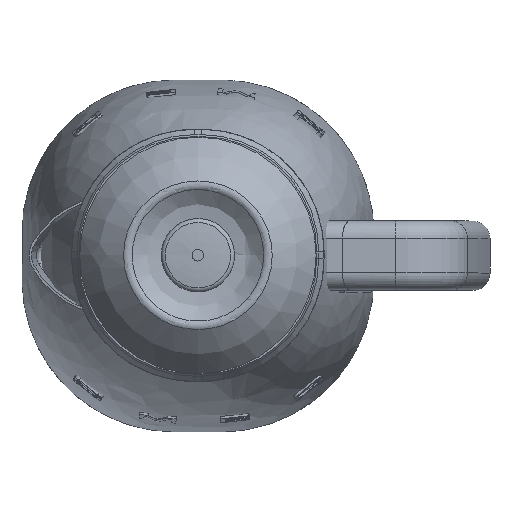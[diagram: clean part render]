
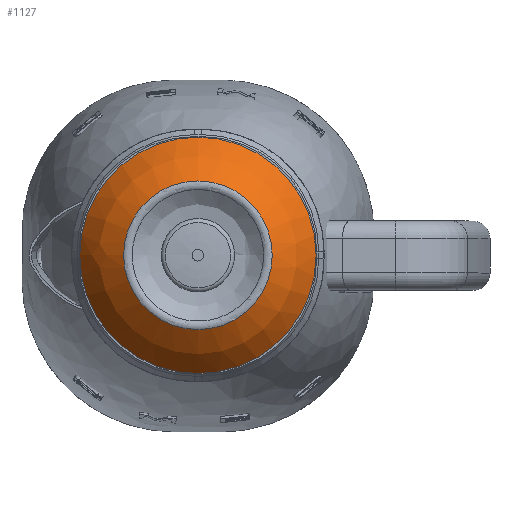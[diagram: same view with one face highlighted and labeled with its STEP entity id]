
A CAD part, top view. The second image highlights one B-rep face of the part: STEP entity #1127.
In plain terms, the highlighted spherical face has radius 59.5 mm.
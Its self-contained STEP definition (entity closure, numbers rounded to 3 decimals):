
#37=SPHERICAL_SURFACE('',#7516,59.5);
#83=FACE_BOUND('',#2071,.T.);
#84=FACE_BOUND('',#2072,.T.);
#481=CIRCLE('',#7514,32.119);
#482=CIRCLE('',#7515,51.088);
#1127=ADVANCED_FACE('',(#83,#84),#37,.T.);
#2071=EDGE_LOOP('',(#3311));
#2072=EDGE_LOOP('',(#3312));
#3311=ORIENTED_EDGE('',*,*,#5429,.T.);
#3312=ORIENTED_EDGE('',*,*,#5430,.F.);
#4593=VERTEX_POINT('',#11481);
#4594=VERTEX_POINT('',#11483);
#5429=EDGE_CURVE('',#4593,#4593,#481,.T.);
#5430=EDGE_CURVE('',#4594,#4594,#482,.T.);
#7514=AXIS2_PLACEMENT_3D('',#11480,#8950,#8951);
#7515=AXIS2_PLACEMENT_3D('',#11482,#8952,#8953);
#7516=AXIS2_PLACEMENT_3D('',#11484,#8954,#8955);
#8950=DIRECTION('',(0.,0.,-1.));
#8951=DIRECTION('',(-1.,0.,0.));
#8952=DIRECTION('',(0.,0.,-1.));
#8953=DIRECTION('',(-1.,0.,0.));
#8954=DIRECTION('',(0.,0.,1.));
#8955=DIRECTION('',(1.,0.,0.));
#11480=CARTESIAN_POINT('',(0.,0.,190.086));
#11481=CARTESIAN_POINT('',(-32.119,0.,190.086));
#11482=CARTESIAN_POINT('',(0.,0.,170.5));
#11483=CARTESIAN_POINT('',(-51.088,0.,170.5));
#11484=CARTESIAN_POINT('',(0.,0.,140.));
